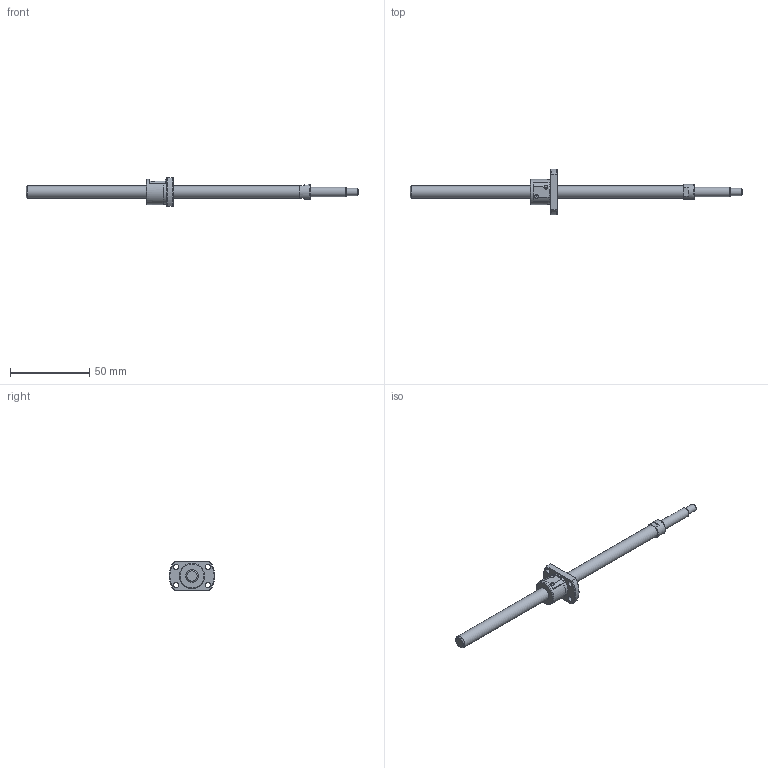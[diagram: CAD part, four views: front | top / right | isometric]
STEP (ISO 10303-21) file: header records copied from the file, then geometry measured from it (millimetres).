
FILE_DESCRIPTION(/* description */ ('STEP AP214'),/* implementation_level */ '2;1');
FILE_NAME(/* name */ 'PSRT0801-169R210C5A0X(A76)',/* time_stamp */ '2026-08-06T16:12:06+02:00',/* author */ ('License CC BY-ND 4.0'),/* organization */ ('CADENAS'),/* preprocessor_version */ 'ST-DEVELOPER v20',/* originating_system */ 'PARTsolutions',/* authorisation */ ' ');
FILE_SCHEMA (('AUTOMOTIVE_DESIGN {1 0 10303 214 3 1 1}'));
Length unit declared in the file: millimetre
Products named in the file (3): PSRT0801-169R210C5A0X(A76); PSRT0801A210_shaft; PSR0801_nut
Assembly tree (2 placements, depth 2):
  PSRT0801-169R210C5A0X(A76)
    PSRT0801A210_shaft
    PSR0801_nut
Bounding box: 210 x 29 x 18 mm (x, y, z)
Volume: 13367.4 mm3; surface area: 7643.2 mm2
Topology: 2 solids, 2 shells, 68 faces, 168 edges, 109 vertices
Faces by surface type: plane 33, cylinder 25, cone 9, torus 1
Full cylindrical faces by diameter (mm): 2.5 x2, 3.4 x4, 4.5 x1, 6 x1, 8 x2, 9.5 x1, 15.6 x1, 16 x1
Entity records: 1997 total; most frequent: CARTESIAN_POINT 355, DIRECTION 342, ORIENTED_EDGE 288, EDGE_CURVE 144, AXIS2_PLACEMENT_3D 137, VERTEX_POINT 104, EDGE_LOOP 102, FACE_BOUND 102
